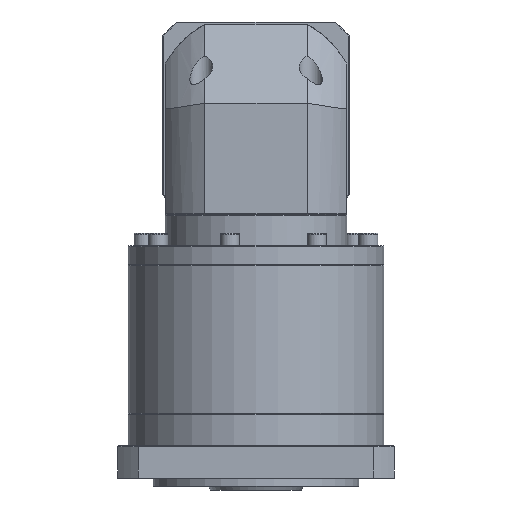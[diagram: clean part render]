
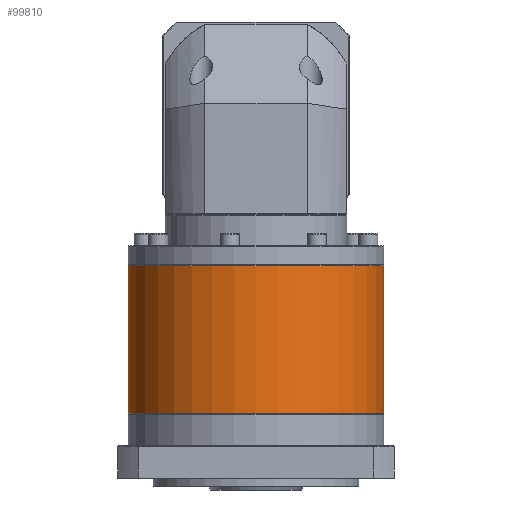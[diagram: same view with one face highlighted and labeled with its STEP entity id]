
A CAD part, front view. The second image highlights one B-rep face of the part: STEP entity #99810.
In plain terms, the highlighted cylindrical face has radius 81 mm (diameter 162 mm), a partial arc.
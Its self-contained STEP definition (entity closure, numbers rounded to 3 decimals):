
#3946 = AXIS2_PLACEMENT_3D ( 'NONE', #33412, #106840, #128070 ) ;
#10090 = CARTESIAN_POINT ( 'NONE',  ( -242.687, 92.272, -156.455 ) ) ;
#17272 = EDGE_LOOP ( 'NONE', ( #121030, #104424, #107926, #22563 ) ) ;
#18333 = DIRECTION ( 'NONE',  ( 0., 0., -1. ) ) ;
#20891 = VERTEX_POINT ( 'NONE', #98504 ) ;
#22563 = ORIENTED_EDGE ( 'NONE', *, *, #86513, .T. ) ;
#23617 = CYLINDRICAL_SURFACE ( 'NONE', #48406, 81. ) ;
#28807 = VERTEX_POINT ( 'NONE', #10090 ) ;
#29585 = VECTOR ( 'NONE', #108621, 1000. ) ;
#33412 = CARTESIAN_POINT ( 'NONE',  ( -161.687, 92.272, -156.455 ) ) ;
#35152 = CARTESIAN_POINT ( 'NONE',  ( -80.687, 92.272, -62.455 ) ) ;
#38195 = DIRECTION ( 'NONE',  ( -1., 0., 0. ) ) ;
#40787 = CIRCLE ( 'NONE', #3946, 81. ) ;
#48406 = AXIS2_PLACEMENT_3D ( 'NONE', #121838, #91852, #69225 ) ;
#48916 = VECTOR ( 'NONE', #100470, 1000. ) ;
#59489 = CARTESIAN_POINT ( 'NONE',  ( -80.687, 92.272, -156.455 ) ) ;
#69225 = DIRECTION ( 'NONE',  ( -1., 0., 0. ) ) ;
#70187 = AXIS2_PLACEMENT_3D ( 'NONE', #81600, #18333, #38195 ) ;
#71809 = EDGE_CURVE ( 'NONE', #101843, #28807, #98388, .T. ) ;
#74954 = EDGE_CURVE ( 'NONE', #20891, #130761, #97274, .T. ) ;
#75483 = CARTESIAN_POINT ( 'NONE',  ( -242.687, 92.272, -62.955 ) ) ;
#79796 = FACE_OUTER_BOUND ( 'NONE', #17272, .T. ) ;
#81600 = CARTESIAN_POINT ( 'NONE',  ( -161.687, 92.272, -62.955 ) ) ;
#86513 = EDGE_CURVE ( 'NONE', #28807, #130761, #40787, .T. ) ;
#91238 = CARTESIAN_POINT ( 'NONE',  ( -242.687, 92.272, -62.455 ) ) ;
#91852 = DIRECTION ( 'NONE',  ( 0., 0., -1. ) ) ;
#97274 = LINE ( 'NONE', #35152, #29585 ) ;
#98388 = LINE ( 'NONE', #91238, #48916 ) ;
#98504 = CARTESIAN_POINT ( 'NONE',  ( -80.687, 92.272, -62.955 ) ) ;
#99810 = ADVANCED_FACE ( 'NONE', ( #79796 ), #23617, .T. ) ;
#100470 = DIRECTION ( 'NONE',  ( 0., 0., -1. ) ) ;
#101843 = VERTEX_POINT ( 'NONE', #75483 ) ;
#104424 = ORIENTED_EDGE ( 'NONE', *, *, #123422, .T. ) ;
#106840 = DIRECTION ( 'NONE',  ( 0., 0., 1. ) ) ;
#107926 = ORIENTED_EDGE ( 'NONE', *, *, #71809, .T. ) ;
#108621 = DIRECTION ( 'NONE',  ( 0., 0., -1. ) ) ;
#113589 = CIRCLE ( 'NONE', #70187, 81. ) ;
#121030 = ORIENTED_EDGE ( 'NONE', *, *, #74954, .F. ) ;
#121838 = CARTESIAN_POINT ( 'NONE',  ( -161.687, 92.272, -62.455 ) ) ;
#123422 = EDGE_CURVE ( 'NONE', #20891, #101843, #113589, .T. ) ;
#128070 = DIRECTION ( 'NONE',  ( -1., 0., 0. ) ) ;
#130761 = VERTEX_POINT ( 'NONE', #59489 ) ;
